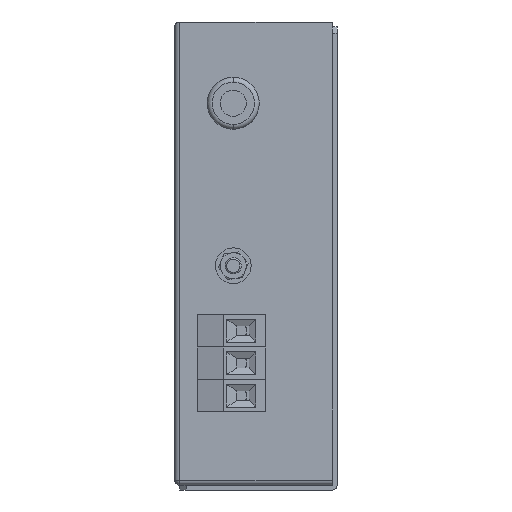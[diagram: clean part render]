
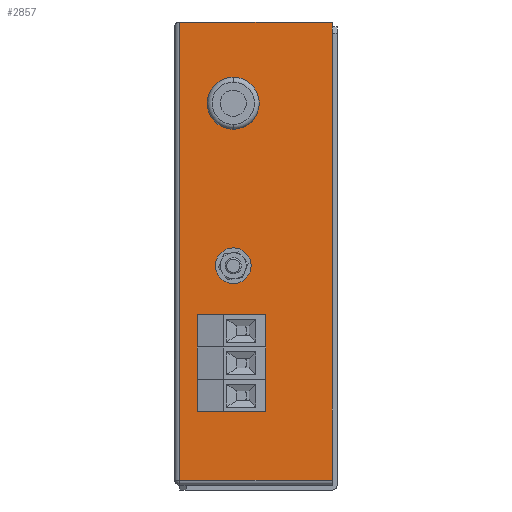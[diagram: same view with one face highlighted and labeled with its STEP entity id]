
A CAD part, left-side view. The second image highlights one B-rep face of the part: STEP entity #2857.
In plain terms, the highlighted planar face has unit normal (-1, 0, 0).
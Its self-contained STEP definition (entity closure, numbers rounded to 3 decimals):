
#80 = EDGE_CURVE ( 'NONE', #7027, #5571, #7042, .T. ) ;
#104 = AXIS2_PLACEMENT_3D ( 'NONE', #7522, #9078, #5283 ) ;
#127 = ORIENTED_EDGE ( 'NONE', *, *, #9811, .F. ) ;
#178 = CARTESIAN_POINT ( 'NONE',  ( 23., 32., -71. ) ) ;
#274 = CARTESIAN_POINT ( 'NONE',  ( 23., 32., -103.5 ) ) ;
#302 = DIRECTION ( 'NONE',  ( 1., 0., 0. ) ) ;
#376 = CARTESIAN_POINT ( 'NONE',  ( 23., 32., -93.5 ) ) ;
#396 = DIRECTION ( 'NONE',  ( 0., 0., 1. ) ) ;
#414 = CARTESIAN_POINT ( 'NONE',  ( 23., 1.5, 1.5 ) ) ;
#439 = CARTESIAN_POINT ( 'NONE',  ( 23., 1.5, 0. ) ) ;
#483 = VECTOR ( 'NONE', #6729, 1000. ) ;
#485 = EDGE_CURVE ( 'NONE', #6562, #7887, #9677, .T. ) ;
#522 = VERTEX_POINT ( 'NONE', #1118 ) ;
#608 = FACE_OUTER_BOUND ( 'NONE', #2338, .T. ) ;
#642 = DIRECTION ( 'NONE',  ( 0., -1., 0. ) ) ;
#697 = CARTESIAN_POINT ( 'NONE',  ( 23., 32., -73.5 ) ) ;
#839 = ORIENTED_EDGE ( 'NONE', *, *, #485, .F. ) ;
#935 = DIRECTION ( 'NONE',  ( 0., 0., 1. ) ) ;
#957 = EDGE_CURVE ( 'NONE', #7154, #7180, #9441, .T. ) ;
#993 = VECTOR ( 'NONE', #642, 1000. ) ;
#995 = CARTESIAN_POINT ( 'NONE',  ( 23., 48.5, 1.5 ) ) ;
#1035 = DIRECTION ( 'NONE',  ( -1., 0., 0. ) ) ;
#1042 = EDGE_LOOP ( 'NONE', ( #839, #127 ) ) ;
#1059 = DIRECTION ( 'NONE',  ( 0., 0., 1. ) ) ;
#1118 = CARTESIAN_POINT ( 'NONE',  ( 23., 1.5, 1.5 ) ) ;
#1138 = CARTESIAN_POINT ( 'NONE',  ( 23., 32., -23.5 ) ) ;
#1172 = ORIENTED_EDGE ( 'NONE', *, *, #7150, .T. ) ;
#1173 = EDGE_CURVE ( 'NONE', #5571, #522, #7400, .T. ) ;
#1212 = CARTESIAN_POINT ( 'NONE',  ( 23., 1.5, -139.5 ) ) ;
#1297 = CARTESIAN_POINT ( 'NONE',  ( 23., 1.5, 1.5 ) ) ;
#1303 = VECTOR ( 'NONE', #6155, 1000. ) ;
#1480 = AXIS2_PLACEMENT_3D ( 'NONE', #7667, #3053, #4462 ) ;
#1498 = CARTESIAN_POINT ( 'NONE',  ( 23., 32., -97.6 ) ) ;
#1681 = LINE ( 'NONE', #9201, #1303 ) ;
#1862 = ORIENTED_EDGE ( 'NONE', *, *, #957, .F. ) ;
#1876 = CARTESIAN_POINT ( 'NONE',  ( 23., 32., -23.5 ) ) ;
#2053 = EDGE_CURVE ( 'NONE', #5992, #4641, #9433, .T. ) ;
#2188 = FACE_BOUND ( 'NONE', #4984, .T. ) ;
#2251 = ORIENTED_EDGE ( 'NONE', *, *, #4031, .F. ) ;
#2338 = EDGE_LOOP ( 'NONE', ( #2251, #3015, #1172, #6218, #8857 ) ) ;
#2351 = AXIS2_PLACEMENT_3D ( 'NONE', #7809, #2500, #935 ) ;
#2368 = ORIENTED_EDGE ( 'NONE', *, *, #5215, .F. ) ;
#2370 = CARTESIAN_POINT ( 'NONE',  ( 23., 32., -107.6 ) ) ;
#2435 = ORIENTED_EDGE ( 'NONE', *, *, #7841, .F. ) ;
#2500 = DIRECTION ( 'NONE',  ( -1., 0., 0. ) ) ;
#2636 = DIRECTION ( 'NONE',  ( 0., 0., -1. ) ) ;
#2663 = DIRECTION ( 'NONE',  ( -1., 0., 0. ) ) ;
#2674 = FACE_BOUND ( 'NONE', #1042, .T. ) ;
#2683 = CARTESIAN_POINT ( 'NONE',  ( 23., 50., 1.5 ) ) ;
#2815 = LINE ( 'NONE', #995, #8717 ) ;
#2857 = ADVANCED_FACE ( 'NONE', ( #5319, #2674, #3397, #2188, #4237, #608 ), #8860, .F. ) ;
#3015 = ORIENTED_EDGE ( 'NONE', *, *, #7537, .T. ) ;
#3053 = DIRECTION ( 'NONE',  ( -1., 0., 0. ) ) ;
#3126 = DIRECTION ( 'NONE',  ( -1., 0., 0. ) ) ;
#3156 = AXIS2_PLACEMENT_3D ( 'NONE', #697, #3126, #4685 ) ;
#3198 = VERTEX_POINT ( 'NONE', #7104 ) ;
#3209 = ORIENTED_EDGE ( 'NONE', *, *, #7665, .F. ) ;
#3397 = FACE_BOUND ( 'NONE', #8190, .T. ) ;
#3568 = ORIENTED_EDGE ( 'NONE', *, *, #7544, .F. ) ;
#3796 = AXIS2_PLACEMENT_3D ( 'NONE', #376, #8265, #5828 ) ;
#3859 = DIRECTION ( 'NONE',  ( 0., 0., 1. ) ) ;
#3883 = AXIS2_PLACEMENT_3D ( 'NONE', #9588, #1035, #4149 ) ;
#4024 = CARTESIAN_POINT ( 'NONE',  ( 23., 32., -76. ) ) ;
#4031 = EDGE_CURVE ( 'NONE', #3198, #522, #1681, .T. ) ;
#4149 = DIRECTION ( 'NONE',  ( 0., 0., 1. ) ) ;
#4211 = CARTESIAN_POINT ( 'NONE',  ( 23., 32., -29.75 ) ) ;
#4235 = CARTESIAN_POINT ( 'NONE',  ( 23., 32., -99.4 ) ) ;
#4237 = FACE_BOUND ( 'NONE', #8918, .T. ) ;
#4443 = EDGE_CURVE ( 'NONE', #5486, #5638, #9103, .T. ) ;
#4462 = DIRECTION ( 'NONE',  ( 0., 0., 1. ) ) ;
#4641 = VERTEX_POINT ( 'NONE', #6846 ) ;
#4685 = DIRECTION ( 'NONE',  ( 0., 0., 1. ) ) ;
#4984 = EDGE_LOOP ( 'NONE', ( #2368, #2435 ) ) ;
#5027 = DIRECTION ( 'NONE',  ( -1., 0., 0. ) ) ;
#5087 = VERTEX_POINT ( 'NONE', #6079 ) ;
#5215 = EDGE_CURVE ( 'NONE', #6455, #9482, #9142, .T. ) ;
#5282 = CARTESIAN_POINT ( 'NONE',  ( 23., 32., -17.25 ) ) ;
#5283 = DIRECTION ( 'NONE',  ( 0., 0., 1. ) ) ;
#5319 = FACE_BOUND ( 'NONE', #7595, .T. ) ;
#5480 = AXIS2_PLACEMENT_3D ( 'NONE', #274, #9574, #7991 ) ;
#5486 = VERTEX_POINT ( 'NONE', #4211 ) ;
#5506 = EDGE_CURVE ( 'NONE', #7180, #7154, #9259, .T. ) ;
#5571 = VERTEX_POINT ( 'NONE', #439 ) ;
#5638 = VERTEX_POINT ( 'NONE', #5282 ) ;
#5828 = DIRECTION ( 'NONE',  ( 0., 0., 1. ) ) ;
#5845 = AXIS2_PLACEMENT_3D ( 'NONE', #2683, #302, #8755 ) ;
#5992 = VERTEX_POINT ( 'NONE', #9651 ) ;
#6079 = CARTESIAN_POINT ( 'NONE',  ( 23., 48.5, -139.5 ) ) ;
#6131 = CIRCLE ( 'NONE', #1480, 2.5 ) ;
#6155 = DIRECTION ( 'NONE',  ( 0., -1., 0. ) ) ;
#6218 = ORIENTED_EDGE ( 'NONE', *, *, #80, .T. ) ;
#6455 = VERTEX_POINT ( 'NONE', #178 ) ;
#6562 = VERTEX_POINT ( 'NONE', #4235 ) ;
#6618 = ORIENTED_EDGE ( 'NONE', *, *, #2053, .F. ) ;
#6729 = DIRECTION ( 'NONE',  ( 0., 0., 1. ) ) ;
#6846 = CARTESIAN_POINT ( 'NONE',  ( 23., 32., -109.4 ) ) ;
#6907 = DIRECTION ( 'NONE',  ( -1., 0., 0. ) ) ;
#6934 = CIRCLE ( 'NONE', #9434, 6.25 ) ;
#7027 = VERTEX_POINT ( 'NONE', #1212 ) ;
#7042 = LINE ( 'NONE', #414, #483 ) ;
#7104 = CARTESIAN_POINT ( 'NONE',  ( 23., 48.5, 1.5 ) ) ;
#7150 = EDGE_CURVE ( 'NONE', #5087, #7027, #7896, .T. ) ;
#7154 = VERTEX_POINT ( 'NONE', #1498 ) ;
#7180 = VERTEX_POINT ( 'NONE', #8559 ) ;
#7252 = CIRCLE ( 'NONE', #7512, 4.1 ) ;
#7336 = ORIENTED_EDGE ( 'NONE', *, *, #5506, .F. ) ;
#7400 = LINE ( 'NONE', #1297, #7763 ) ;
#7512 = AXIS2_PLACEMENT_3D ( 'NONE', #9666, #5027, #396 ) ;
#7522 = CARTESIAN_POINT ( 'NONE',  ( 23., 32., -113.5 ) ) ;
#7537 = EDGE_CURVE ( 'NONE', #3198, #5087, #2815, .T. ) ;
#7544 = EDGE_CURVE ( 'NONE', #5638, #5486, #6934, .T. ) ;
#7595 = EDGE_LOOP ( 'NONE', ( #3209, #6618 ) ) ;
#7665 = EDGE_CURVE ( 'NONE', #4641, #5992, #8240, .T. ) ;
#7666 = ORIENTED_EDGE ( 'NONE', *, *, #4443, .F. ) ;
#7667 = CARTESIAN_POINT ( 'NONE',  ( 23., 32., -73.5 ) ) ;
#7763 = VECTOR ( 'NONE', #8269, 1000. ) ;
#7809 = CARTESIAN_POINT ( 'NONE',  ( 23., 32., -113.5 ) ) ;
#7841 = EDGE_CURVE ( 'NONE', #9482, #6455, #6131, .T. ) ;
#7887 = VERTEX_POINT ( 'NONE', #2370 ) ;
#7896 = LINE ( 'NONE', #9974, #993 ) ;
#7991 = DIRECTION ( 'NONE',  ( 0., 0., 1. ) ) ;
#8190 = EDGE_LOOP ( 'NONE', ( #7336, #1862 ) ) ;
#8240 = CIRCLE ( 'NONE', #104, 4.1 ) ;
#8265 = DIRECTION ( 'NONE',  ( -1., 0., 0. ) ) ;
#8269 = DIRECTION ( 'NONE',  ( 0., 0., 1. ) ) ;
#8559 = CARTESIAN_POINT ( 'NONE',  ( 23., 32., -89.4 ) ) ;
#8717 = VECTOR ( 'NONE', #2636, 1000. ) ;
#8755 = DIRECTION ( 'NONE',  ( 0., 0., -1. ) ) ;
#8857 = ORIENTED_EDGE ( 'NONE', *, *, #1173, .T. ) ;
#8860 = PLANE ( 'NONE',  #5845 ) ;
#8918 = EDGE_LOOP ( 'NONE', ( #3568, #7666 ) ) ;
#9078 = DIRECTION ( 'NONE',  ( -1., 0., 0. ) ) ;
#9103 = CIRCLE ( 'NONE', #9931, 6.25 ) ;
#9142 = CIRCLE ( 'NONE', #3156, 2.5 ) ;
#9201 = CARTESIAN_POINT ( 'NONE',  ( 23., 50., 1.5 ) ) ;
#9259 = CIRCLE ( 'NONE', #3796, 4.1 ) ;
#9433 = CIRCLE ( 'NONE', #2351, 4.1 ) ;
#9434 = AXIS2_PLACEMENT_3D ( 'NONE', #1876, #2663, #1059 ) ;
#9441 = CIRCLE ( 'NONE', #3883, 4.1 ) ;
#9482 = VERTEX_POINT ( 'NONE', #4024 ) ;
#9574 = DIRECTION ( 'NONE',  ( -1., 0., 0. ) ) ;
#9588 = CARTESIAN_POINT ( 'NONE',  ( 23., 32., -93.5 ) ) ;
#9651 = CARTESIAN_POINT ( 'NONE',  ( 23., 32., -117.6 ) ) ;
#9666 = CARTESIAN_POINT ( 'NONE',  ( 23., 32., -103.5 ) ) ;
#9677 = CIRCLE ( 'NONE', #5480, 4.1 ) ;
#9811 = EDGE_CURVE ( 'NONE', #7887, #6562, #7252, .T. ) ;
#9931 = AXIS2_PLACEMENT_3D ( 'NONE', #1138, #6907, #3859 ) ;
#9974 = CARTESIAN_POINT ( 'NONE',  ( 23., 50., -139.5 ) ) ;
